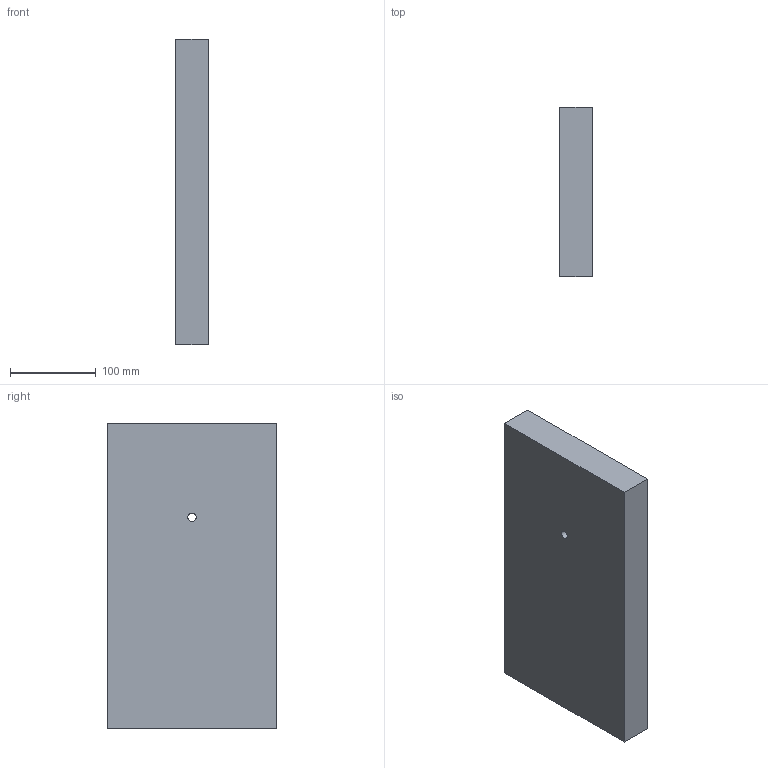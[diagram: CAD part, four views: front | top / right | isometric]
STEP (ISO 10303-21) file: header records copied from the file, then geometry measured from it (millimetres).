
FILE_DESCRIPTION(('FreeCAD Model'),'2;1');
FILE_NAME('/home/jwright/Documents/Mach_30/Shepard_v1.0_Mechanical/STEP_Files/Shepard_v1.0_Back_Plate_BP01.step','2012-10-16T23:13:01',( 'FreeCAD'),('FreeCAD'),'Open CASCADE STEP processor 6.5','FreeCAD', 'Unknown');
FILE_SCHEMA(('AUTOMOTIVE_DESIGN_CC2 { 1 2 10303 214 -1 1 5 4 }'));
Length unit declared in the file: millimetre
Products named in the file (1): Cut
Bounding box: 38.1 x 196.85 x 355.6 mm (x, y, z)
Volume: 2664282.7 mm3; surface area: 183093.5 mm2
Topology: 1 solids, 1 shells, 7 faces, 16 edges, 11 vertices
Faces by surface type: plane 6, cylinder 1
Full cylindrical faces by diameter (mm): 9.52 x1
Entity records: 434 total; most frequent: CARTESIAN_POINT 67, DIRECTION 67, LINE 42, VECTOR 42, ORIENTED_EDGE 32, PCURVE 32, DEFINITIONAL_REPRESENTATION 32, EDGE_CURVE 16
